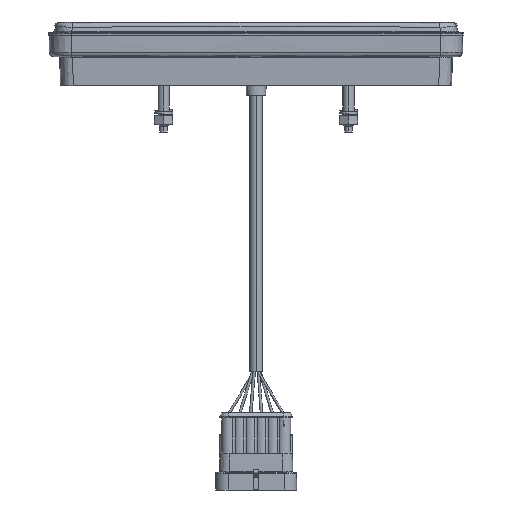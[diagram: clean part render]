
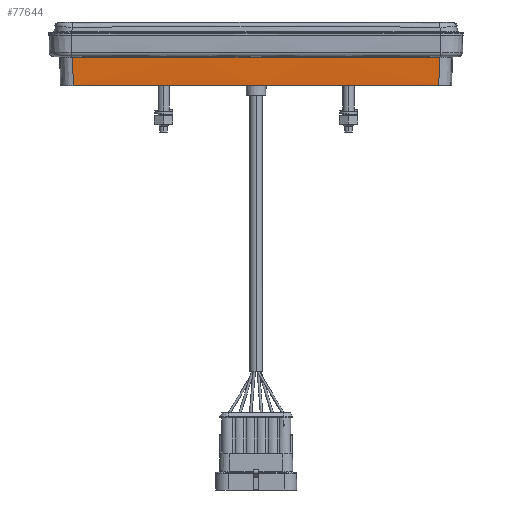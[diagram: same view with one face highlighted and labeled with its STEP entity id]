
A CAD part, front view. The second image highlights one B-rep face of the part: STEP entity #77644.
In plain terms, the highlighted conical face has half-angle 2 degrees and reference radius 6000 mm.
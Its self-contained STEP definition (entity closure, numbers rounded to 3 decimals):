
#62562=VERTEX_POINT('',#62561) ;
#62635=VERTEX_POINT('',#62634) ;
#77603=VERTEX_POINT('',#77602) ;
#77631=VERTEX_POINT('',#77630) ;
#77621=DIRECTION('Axis2P3D Direction',(0.,0.,1.)) ;
#77622=DIRECTION('Axis2P3D XDirection',(-0.018,-1.,0.)) ;
#77634=DIRECTION('Axis2P3D Direction',(0.,0.,1.)) ;
#62561=CARTESIAN_POINT('Vertex',(-98.862,-45.06,-1.11)) ;
#62634=CARTESIAN_POINT('Vertex',(98.862,-45.06,-1.11)) ;
#62638=CARTESIAN_POINT('Control Point',(-98.862,-45.06,-1.11)) ;
#62639=CARTESIAN_POINT('Control Point',(-59.912,-45.702,-1.11)) ;
#62640=CARTESIAN_POINT('Control Point',(-20.958,-46.027,-1.11)) ;
#62641=CARTESIAN_POINT('Control Point',(17.999,-46.037,-1.11)) ;
#62642=CARTESIAN_POINT('Control Point',(57.545,-45.726,-1.11)) ;
#62643=CARTESIAN_POINT('Control Point',(97.086,-45.089,-1.11)) ;
#62644=CARTESIAN_POINT('Control Point',(97.678,-45.079,-1.11)) ;
#62645=CARTESIAN_POINT('Control Point',(98.27,-45.069,-1.11)) ;
#62646=CARTESIAN_POINT('Control Point',(98.862,-45.06,-1.11)) ;
#77596=CARTESIAN_POINT('Control Point',(-99.377,-45.583,14.11)) ;
#77597=CARTESIAN_POINT('Control Point',(-99.274,-45.478,11.066)) ;
#77598=CARTESIAN_POINT('Control Point',(-99.171,-45.373,8.022)) ;
#77599=CARTESIAN_POINT('Control Point',(-99.068,-45.269,4.978)) ;
#77600=CARTESIAN_POINT('Control Point',(-98.965,-45.164,1.934)) ;
#77601=CARTESIAN_POINT('Control Point',(-98.862,-45.06,-1.11)) ;
#77602=CARTESIAN_POINT('Vertex',(-99.377,-45.583,14.11)) ;
#77620=CARTESIAN_POINT('Axis2P3D Location',(0.,5953.2,25.4)) ;
#77626=CARTESIAN_POINT('Control Point',(99.377,-45.583,14.11)) ;
#77627=CARTESIAN_POINT('Control Point',(99.205,-45.408,9.037)) ;
#77628=CARTESIAN_POINT('Control Point',(99.033,-45.234,3.963)) ;
#77629=CARTESIAN_POINT('Control Point',(98.862,-45.06,-1.11)) ;
#77630=CARTESIAN_POINT('Vertex',(99.377,-45.583,14.11)) ;
#77633=CARTESIAN_POINT('Axis2P3D Location',(0.,5953.2,14.11)) ;
#77623=AXIS2_PLACEMENT_3D('Cone Axis2P3D',#77620,#77621,#77622) ;
#77635=AXIS2_PLACEMENT_3D('Circle Axis2P3D',#77633,#77634,$) ;
#77636=CIRCLE('generated circle',#77635,5999.606) ;
#77624=CONICAL_SURFACE('Cone',#77623,6000.,0.035) ;
#62647=EDGE_CURVE('',#62562,#62635,#62637,.T.) ;
#77604=EDGE_CURVE('',#62562,#77603,#77595,.F.) ;
#77632=EDGE_CURVE('',#62635,#77631,#77625,.F.) ;
#77637=EDGE_CURVE('',#77631,#77603,#77636,.F.) ;
#77639=ORIENTED_EDGE('',*,*,#77632,.T.) ;
#77640=ORIENTED_EDGE('',*,*,#77637,.T.) ;
#77641=ORIENTED_EDGE('',*,*,#77604,.F.) ;
#77642=ORIENTED_EDGE('',*,*,#62647,.T.) ;
#77638=EDGE_LOOP('',(#77639,#77640,#77641,#77642)) ;
#77644=ADVANCED_FACE('Lamp_328.630-03',(#77643),#77624,.T.) ;
#62637=B_SPLINE_CURVE_WITH_KNOTS('',5,(#62638,#62639,#62640,#62641,#62642,#62643,#62644,#62645,#62646),.UNSPECIFIED.,.F.,.U.,(6,3,6),(69.818,345.283,349.468),.UNIFORM_KNOTS.) ;
#77595=B_SPLINE_CURVE_WITH_KNOTS('',5,(#77596,#77597,#77598,#77599,#77600,#77601),.UNSPECIFIED.,.F.,.U.,(6,6),(79.641,101.192),.UNIFORM_KNOTS.) ;
#77625=B_SPLINE_CURVE_WITH_KNOTS('',3,(#77626,#77627,#77628,#77629),.UNSPECIFIED.,.F.,.U.,(4,4),(79.641,101.192),.UNIFORM_KNOTS.) ;
#77643=FACE_OUTER_BOUND('',#77638,.T.) ;
